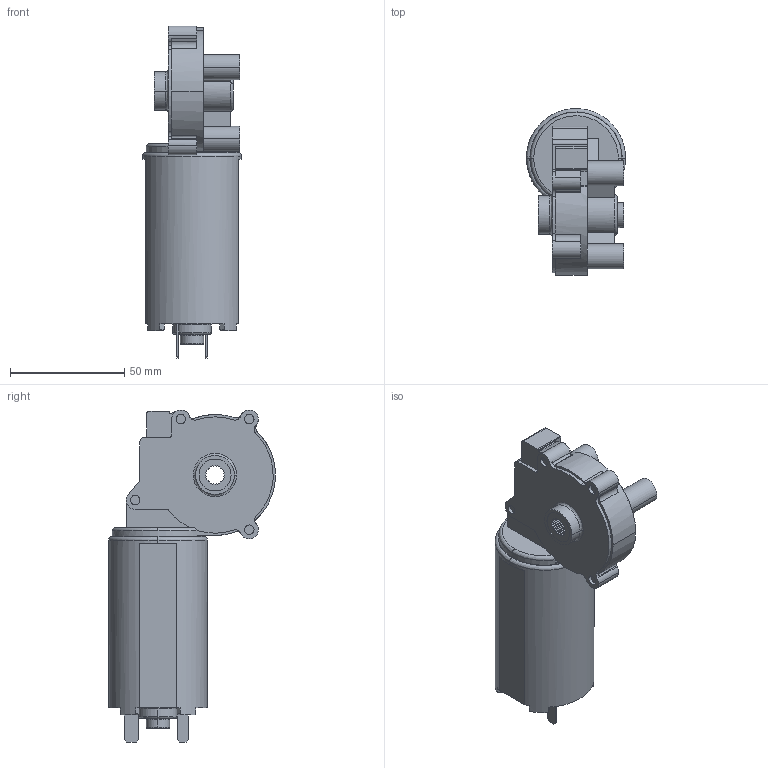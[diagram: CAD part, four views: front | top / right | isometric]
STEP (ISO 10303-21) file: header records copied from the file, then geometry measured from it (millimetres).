
FILE_DESCRIPTION (( 'STEP AP214' ), '1' );
FILE_NAME ('404157_GMPG.STEP', '2016-10-24T06:44:41', ( 'EDV' ), ( 'Hewlett-Packard Company' ), 'SwSTEP 2.0', 'SolidWorks 2016', '' );
FILE_SCHEMA (( 'AUTOMOTIVE_DESIGN' ));
Length unit declared in the file: millimetre
Products named in the file (1): 404157_GMPG
Bounding box: 43.4 x 73.19 x 145.5 mm (x, y, z)
Volume: 167125.1 mm3; surface area: 27760.9 mm2
Topology: 1 solids, 1 shells, 257 faces, 698 edges, 461 vertices
Faces by surface type: plane 148, cylinder 90, bspline 19
Entity records: 11156 total; most frequent: CARTESIAN_POINT 4842, ORIENTED_EDGE 1392, DIRECTION 1193, EDGE_CURVE 696, VERTEX_POINT 460, LINE 415, VECTOR 415, AXIS2_PLACEMENT_3D 389
